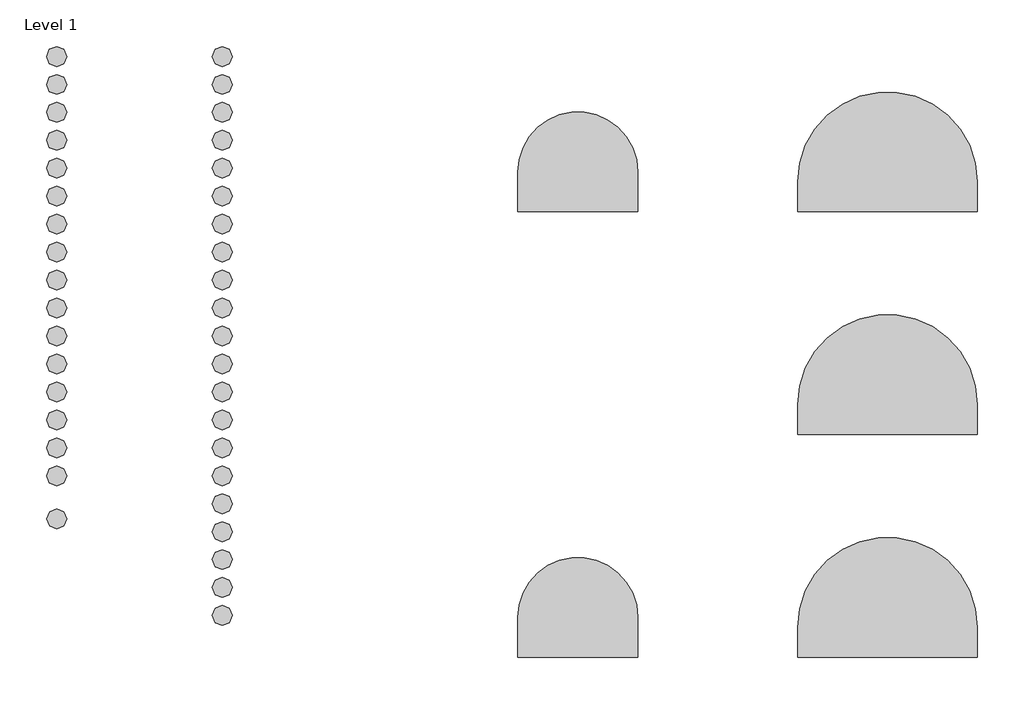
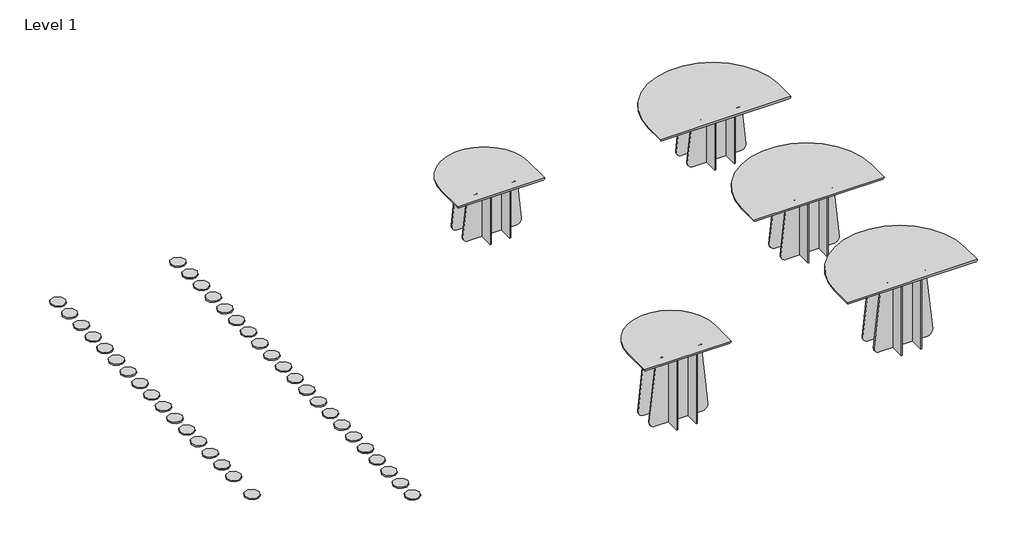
# One storey, incomplete: 38 proxies, 5 furniture elements.
"""IFC4 building model written with IfcOpenShell, lengths in millimetres."""

from ifc_helpers import new_model, si_unit, origin, place, context, project, spatial, transform, mapped, element, save
from components import materialmodel_materialmodel_33d36961, furniture_b316d67d, furniture_634e2856, furniture_daae894f, furniture_8cfc61dc, furniture_d688ee71

model = new_model("IFC4")

# Units and contexts
model_context = context("Model", 3, world=origin())
ifc_project = project(units=[si_unit("LENGTHUNIT", "METRE", prefix="MILLI")], contexts=[model_context])

# Site, building, storey
site = spatial("IfcSite", under=ifc_project)
building = spatial("IfcBuilding", under=site)
storey = spatial("IfcBuildingStorey", under=building, Name="Level 1", Elevation=0.0)

# Proxies
placement = place(None, origin())
materialmodel_materialmodel_shape = materialmodel_materialmodel_33d36961(model_context)
element("IfcBuildingElementProxy", 1, Name="MaterialModel : MaterialModel", ObjectType="MaterialModel : MaterialModel", at=placement, inside=storey, context=model_context, shape_type="MappedRepresentation", body=[
    mapped(materialmodel_materialmodel_shape, transform((3174.8825232, 5959.7864083, 0.0), x_axis=(1.0, 0.0, 0.0), y_axis=(0.0, 1.0, 0.0), z_axis=(0.0, 0.0, 1.0))),
])
element("IfcBuildingElementProxy", 2, Name="MaterialModel : MaterialModel", ObjectType="MaterialModel : MaterialModel", at=placement, inside=storey, context=model_context, shape_type="MappedRepresentation", body=[
    mapped(materialmodel_materialmodel_shape, transform((3174.8825232, 5679.7864083, 0.0), x_axis=(1.0, 0.0, 0.0), y_axis=(0.0, 1.0, 0.0), z_axis=(0.0, 0.0, 1.0))),
])
element("IfcBuildingElementProxy", 3, Name="MaterialModel : MaterialModel", ObjectType="MaterialModel : MaterialModel", at=placement, inside=storey, context=model_context, shape_type="MappedRepresentation", body=[
    mapped(materialmodel_materialmodel_shape, transform((3174.8825232, 5399.7864083, 0.0), x_axis=(1.0, 0.0, 0.0), y_axis=(0.0, 1.0, 0.0), z_axis=(0.0, 0.0, 1.0))),
])
element("IfcBuildingElementProxy", 4, Name="MaterialModel : MaterialModel", ObjectType="MaterialModel : MaterialModel", at=placement, inside=storey, context=model_context, shape_type="MappedRepresentation", body=[
    mapped(materialmodel_materialmodel_shape, transform((4832.6075509, 5959.7864083, 0.0), x_axis=(1.0, 0.0, 0.0), y_axis=(0.0, 1.0, 0.0), z_axis=(0.0, 0.0, 1.0))),
])
element("IfcBuildingElementProxy", 5, Name="MaterialModel : MaterialModel", ObjectType="MaterialModel : MaterialModel", at=placement, inside=storey, context=model_context, shape_type="MappedRepresentation", body=[
    mapped(materialmodel_materialmodel_shape, transform((4832.6075509, 5679.7864083, 0.0), x_axis=(1.0, 0.0, 0.0), y_axis=(0.0, 1.0, 0.0), z_axis=(0.0, 0.0, 1.0))),
])
element("IfcBuildingElementProxy", 6, Name="MaterialModel : MaterialModel", ObjectType="MaterialModel : MaterialModel", at=placement, inside=storey, context=model_context, shape_type="MappedRepresentation", body=[
    mapped(materialmodel_materialmodel_shape, transform((4832.6075509, 5399.7864083, 0.0), x_axis=(1.0, 0.0, 0.0), y_axis=(0.0, 1.0, 0.0), z_axis=(0.0, 0.0, 1.0))),
])
element("IfcBuildingElementProxy", 7, Name="MaterialModel : MaterialModel", ObjectType="MaterialModel : MaterialModel", at=placement, inside=storey, context=model_context, shape_type="MappedRepresentation", body=[
    mapped(materialmodel_materialmodel_shape, transform((4832.6075509, 5119.7864083, 0.0), x_axis=(1.0, 0.0, 0.0), y_axis=(0.0, 1.0, 0.0), z_axis=(0.0, 0.0, 1.0))),
])
element("IfcBuildingElementProxy", 8, Name="MaterialModel : MaterialModel", ObjectType="MaterialModel : MaterialModel", at=placement, inside=storey, context=model_context, shape_type="MappedRepresentation", body=[
    mapped(materialmodel_materialmodel_shape, transform((4832.6075509, 4839.7864083, 0.0), x_axis=(1.0, 0.0, 0.0), y_axis=(0.0, 1.0, 0.0), z_axis=(0.0, 0.0, 1.0))),
])
element("IfcBuildingElementProxy", 9, Name="MaterialModel : MaterialModel", ObjectType="MaterialModel : MaterialModel", at=placement, inside=storey, context=model_context, shape_type="MappedRepresentation", body=[
    mapped(materialmodel_materialmodel_shape, transform((4832.6075509, 4559.7864083, 0.0), x_axis=(1.0, 0.0, 0.0), y_axis=(0.0, 1.0, 0.0), z_axis=(0.0, 0.0, 1.0))),
])
element("IfcBuildingElementProxy", 10, Name="MaterialModel : MaterialModel", ObjectType="MaterialModel : MaterialModel", at=placement, inside=storey, context=model_context, shape_type="MappedRepresentation", body=[
    mapped(materialmodel_materialmodel_shape, transform((4832.6075509, 4279.7864083, 0.0), x_axis=(1.0, 0.0, 0.0), y_axis=(0.0, 1.0, 0.0), z_axis=(0.0, 0.0, 1.0))),
])
element("IfcBuildingElementProxy", 11, Name="MaterialModel : MaterialModel", ObjectType="MaterialModel : MaterialModel", at=placement, inside=storey, context=model_context, shape_type="MappedRepresentation", body=[
    mapped(materialmodel_materialmodel_shape, transform((4832.6075509, 3999.7864083, 0.0), x_axis=(1.0, 0.0, 0.0), y_axis=(0.0, 1.0, 0.0), z_axis=(0.0, 0.0, 1.0))),
])
element("IfcBuildingElementProxy", 12, Name="MaterialModel : MaterialModel", ObjectType="MaterialModel : MaterialModel", at=placement, inside=storey, context=model_context, shape_type="MappedRepresentation", body=[
    mapped(materialmodel_materialmodel_shape, transform((4832.6075509, 3719.7864083, 0.0), x_axis=(1.0, 0.0, 0.0), y_axis=(0.0, 1.0, 0.0), z_axis=(0.0, 0.0, 1.0))),
])
element("IfcBuildingElementProxy", 13, Name="MaterialModel : MaterialModel", ObjectType="MaterialModel : MaterialModel", at=placement, inside=storey, context=model_context, shape_type="MappedRepresentation", body=[
    mapped(materialmodel_materialmodel_shape, transform((4832.6075509, 3439.7864083, 0.0), x_axis=(1.0, 0.0, 0.0), y_axis=(0.0, 1.0, 0.0), z_axis=(0.0, 0.0, 1.0))),
])
element("IfcBuildingElementProxy", 14, Name="MaterialModel : MaterialModel", ObjectType="MaterialModel : MaterialModel", at=placement, inside=storey, context=model_context, shape_type="MappedRepresentation", body=[
    mapped(materialmodel_materialmodel_shape, transform((4832.6075509, 3159.7864083, 0.0), x_axis=(1.0, 0.0, 0.0), y_axis=(0.0, 1.0, 0.0), z_axis=(0.0, 0.0, 1.0))),
])
element("IfcBuildingElementProxy", 15, Name="MaterialModel : MaterialModel", ObjectType="MaterialModel : MaterialModel", at=placement, inside=storey, context=model_context, shape_type="MappedRepresentation", body=[
    mapped(materialmodel_materialmodel_shape, transform((4832.6075509, 2879.7864083, 0.0), x_axis=(1.0, 0.0, 0.0), y_axis=(0.0, 1.0, 0.0), z_axis=(0.0, 0.0, 1.0))),
])
element("IfcBuildingElementProxy", 16, Name="MaterialModel : MaterialModel", ObjectType="MaterialModel : MaterialModel", at=placement, inside=storey, context=model_context, shape_type="MappedRepresentation", body=[
    mapped(materialmodel_materialmodel_shape, transform((4832.6075509, 2599.7864083, 0.0), x_axis=(1.0, 0.0, 0.0), y_axis=(0.0, 1.0, 0.0), z_axis=(0.0, 0.0, 1.0))),
])
element("IfcBuildingElementProxy", 17, Name="MaterialModel : MaterialModel", ObjectType="MaterialModel : MaterialModel", at=placement, inside=storey, context=model_context, shape_type="MappedRepresentation", body=[
    mapped(materialmodel_materialmodel_shape, transform((4832.6075509, 2319.7864083, 0.0), x_axis=(1.0, 0.0, 0.0), y_axis=(0.0, 1.0, 0.0), z_axis=(0.0, 0.0, 1.0))),
])
element("IfcBuildingElementProxy", 18, Name="MaterialModel : MaterialModel", ObjectType="MaterialModel : MaterialModel", at=placement, inside=storey, context=model_context, shape_type="MappedRepresentation", body=[
    mapped(materialmodel_materialmodel_shape, transform((4832.6075509, 2039.7864083, 0.0), x_axis=(1.0, 0.0, 0.0), y_axis=(0.0, 1.0, 0.0), z_axis=(0.0, 0.0, 1.0))),
])
element("IfcBuildingElementProxy", 19, Name="MaterialModel : MaterialModel", ObjectType="MaterialModel : MaterialModel", at=placement, inside=storey, context=model_context, shape_type="MappedRepresentation", body=[
    mapped(materialmodel_materialmodel_shape, transform((4832.6075509, 1759.7864083, 0.0), x_axis=(1.0, 0.0, 0.0), y_axis=(0.0, 1.0, 0.0), z_axis=(0.0, 0.0, 1.0))),
])
element("IfcBuildingElementProxy", 20, Name="MaterialModel : MaterialModel", ObjectType="MaterialModel : MaterialModel", at=placement, inside=storey, context=model_context, shape_type="MappedRepresentation", body=[
    mapped(materialmodel_materialmodel_shape, transform((4832.6075509, 1479.7864083, 0.0), x_axis=(1.0, 0.0, 0.0), y_axis=(0.0, 1.0, 0.0), z_axis=(0.0, 0.0, 1.0))),
])
element("IfcBuildingElementProxy", 21, Name="MaterialModel : MaterialModel", ObjectType="MaterialModel : MaterialModel", at=placement, inside=storey, context=model_context, shape_type="MappedRepresentation", body=[
    mapped(materialmodel_materialmodel_shape, transform((4832.6075509, 1199.7864083, 0.0), x_axis=(1.0, 0.0, 0.0), y_axis=(0.0, 1.0, 0.0), z_axis=(0.0, 0.0, 1.0))),
])
element("IfcBuildingElementProxy", 22, Name="MaterialModel : MaterialModel", ObjectType="MaterialModel : MaterialModel", at=placement, inside=storey, context=model_context, shape_type="MappedRepresentation", body=[
    mapped(materialmodel_materialmodel_shape, transform((4832.6075509, 919.7864083, 0.0), x_axis=(1.0, 0.0, 0.0), y_axis=(0.0, 1.0, 0.0), z_axis=(0.0, 0.0, 1.0))),
])
element("IfcBuildingElementProxy", 23, Name="MaterialModel : MaterialModel", ObjectType="MaterialModel : MaterialModel", at=placement, inside=storey, context=model_context, shape_type="MappedRepresentation", body=[
    mapped(materialmodel_materialmodel_shape, transform((4832.6075509, 639.7864083, 0.0), x_axis=(1.0, 0.0, 0.0), y_axis=(0.0, 1.0, 0.0), z_axis=(0.0, 0.0, 1.0))),
])
element("IfcBuildingElementProxy", 24, Name="MaterialModel : MaterialModel", ObjectType="MaterialModel : MaterialModel", at=placement, inside=storey, context=model_context, shape_type="MappedRepresentation", body=[
    mapped(materialmodel_materialmodel_shape, transform((4832.6075509, 359.7864083, 0.0), x_axis=(1.0, 0.0, 0.0), y_axis=(0.0, 1.0, 0.0), z_axis=(0.0, 0.0, 1.0))),
])
element("IfcBuildingElementProxy", 25, Name="MaterialModel : MaterialModel", ObjectType="MaterialModel : MaterialModel", at=placement, inside=storey, context=model_context, shape_type="MappedRepresentation", body=[
    mapped(materialmodel_materialmodel_shape, transform((3174.8825232, 5119.7864083, 0.0), x_axis=(1.0, 0.0, 0.0), y_axis=(0.0, 1.0, 0.0), z_axis=(0.0, 0.0, 1.0))),
])
element("IfcBuildingElementProxy", 26, Name="MaterialModel : MaterialModel", ObjectType="MaterialModel : MaterialModel", at=placement, inside=storey, context=model_context, shape_type="MappedRepresentation", body=[
    mapped(materialmodel_materialmodel_shape, transform((3174.8825232, 4839.7864083, 0.0), x_axis=(1.0, 0.0, 0.0), y_axis=(0.0, 1.0, 0.0), z_axis=(0.0, 0.0, 1.0))),
])
element("IfcBuildingElementProxy", 27, Name="MaterialModel : MaterialModel", ObjectType="MaterialModel : MaterialModel", at=placement, inside=storey, context=model_context, shape_type="MappedRepresentation", body=[
    mapped(materialmodel_materialmodel_shape, transform((3174.8825232, 4559.7864083, 0.0), x_axis=(1.0, 0.0, 0.0), y_axis=(0.0, 1.0, 0.0), z_axis=(0.0, 0.0, 1.0))),
])
element("IfcBuildingElementProxy", 28, Name="MaterialModel : MaterialModel", ObjectType="MaterialModel : MaterialModel", at=placement, inside=storey, context=model_context, shape_type="MappedRepresentation", body=[
    mapped(materialmodel_materialmodel_shape, transform((3174.8825232, 4279.7864083, 0.0), x_axis=(1.0, 0.0, 0.0), y_axis=(0.0, 1.0, 0.0), z_axis=(0.0, 0.0, 1.0))),
])
element("IfcBuildingElementProxy", 29, Name="MaterialModel : MaterialModel", ObjectType="MaterialModel : MaterialModel", at=placement, inside=storey, context=model_context, shape_type="MappedRepresentation", body=[
    mapped(materialmodel_materialmodel_shape, transform((3174.8825232, 3999.7864083, 0.0), x_axis=(1.0, 0.0, 0.0), y_axis=(0.0, 1.0, 0.0), z_axis=(0.0, 0.0, 1.0))),
])
element("IfcBuildingElementProxy", 30, Name="MaterialModel : MaterialModel", ObjectType="MaterialModel : MaterialModel", at=placement, inside=storey, context=model_context, shape_type="MappedRepresentation", body=[
    mapped(materialmodel_materialmodel_shape, transform((3174.8825232, 3719.7864083, 0.0), x_axis=(1.0, 0.0, 0.0), y_axis=(0.0, 1.0, 0.0), z_axis=(0.0, 0.0, 1.0))),
])
element("IfcBuildingElementProxy", 31, Name="MaterialModel : MaterialModel", ObjectType="MaterialModel : MaterialModel", at=placement, inside=storey, context=model_context, shape_type="MappedRepresentation", body=[
    mapped(materialmodel_materialmodel_shape, transform((3174.8825232, 3439.7864083, 0.0), x_axis=(1.0, 0.0, 0.0), y_axis=(0.0, 1.0, 0.0), z_axis=(0.0, 0.0, 1.0))),
])
element("IfcBuildingElementProxy", 32, Name="MaterialModel : MaterialModel", ObjectType="MaterialModel : MaterialModel", at=placement, inside=storey, context=model_context, shape_type="MappedRepresentation", body=[
    mapped(materialmodel_materialmodel_shape, transform((3174.8825232, 3159.7864083, 0.0), x_axis=(1.0, 0.0, 0.0), y_axis=(0.0, 1.0, 0.0), z_axis=(0.0, 0.0, 1.0))),
])
element("IfcBuildingElementProxy", 33, Name="MaterialModel : MaterialModel", ObjectType="MaterialModel : MaterialModel", at=placement, inside=storey, context=model_context, shape_type="MappedRepresentation", body=[
    mapped(materialmodel_materialmodel_shape, transform((3174.8825232, 2879.7864083, 0.0), x_axis=(1.0, 0.0, 0.0), y_axis=(0.0, 1.0, 0.0), z_axis=(0.0, 0.0, 1.0))),
])
element("IfcBuildingElementProxy", 34, Name="MaterialModel : MaterialModel", ObjectType="MaterialModel : MaterialModel", at=placement, inside=storey, context=model_context, shape_type="MappedRepresentation", body=[
    mapped(materialmodel_materialmodel_shape, transform((3174.8825232, 2599.7864083, 0.0), x_axis=(1.0, 0.0, 0.0), y_axis=(0.0, 1.0, 0.0), z_axis=(0.0, 0.0, 1.0))),
])
element("IfcBuildingElementProxy", 35, Name="MaterialModel : MaterialModel", ObjectType="MaterialModel : MaterialModel", at=placement, inside=storey, context=model_context, shape_type="MappedRepresentation", body=[
    mapped(materialmodel_materialmodel_shape, transform((3174.8825232, 2319.7864083, 0.0), x_axis=(1.0, 0.0, 0.0), y_axis=(0.0, 1.0, 0.0), z_axis=(0.0, 0.0, 1.0))),
])
element("IfcBuildingElementProxy", 36, Name="MaterialModel : MaterialModel", ObjectType="MaterialModel : MaterialModel", at=placement, inside=storey, context=model_context, shape_type="MappedRepresentation", body=[
    mapped(materialmodel_materialmodel_shape, transform((3174.8825232, 2039.7864083, 0.0), x_axis=(1.0, 0.0, 0.0), y_axis=(0.0, 1.0, 0.0), z_axis=(0.0, 0.0, 1.0))),
])
element("IfcBuildingElementProxy", 37, Name="MaterialModel : MaterialModel", ObjectType="MaterialModel : MaterialModel", at=placement, inside=storey, context=model_context, shape_type="MappedRepresentation", body=[
    mapped(materialmodel_materialmodel_shape, transform((3174.8825232, 1759.7864083, 0.0), x_axis=(1.0, 0.0, 0.0), y_axis=(0.0, 1.0, 0.0), z_axis=(0.0, 0.0, 1.0))),
])
element("IfcBuildingElementProxy", 38, Name="MaterialModel : MaterialModel", ObjectType="MaterialModel : MaterialModel", at=placement, inside=storey, context=model_context, shape_type="MappedRepresentation", body=[
    mapped(materialmodel_materialmodel_shape, transform((3176.8899528, 1325.8452922, 0.0), x_axis=(1.0, 0.0, 0.0), y_axis=(0.0, 1.0, 0.0), z_axis=(0.0, 0.0, 1.0))),
])

# Furniture
furniture_shape = furniture_b316d67d(model_context)
element("IfcFurniture", 39, ObjectType="Lundbergs Möbler - Funghi Mèta - Table - Half Moon - 180 - H90 : Lundbergs Möbler - Funghi Mèta - Table - Half Moon - 180 - H90", at=placement, inside=storey, context=model_context, shape_type="MappedRepresentation", body=[
    mapped(furniture_shape, transform((11493.8807283, 2529.1334915, 0.0), x_axis=(-1.0, 0.0, 0.0), y_axis=(0.0, -1.0, 0.0), z_axis=(0.0, 0.0, 1.0))),
])
furniture_2_shape = furniture_634e2856(model_context)
element("IfcFurniture", 40, ObjectType="Lundbergs Möbler - Funghi Mèta - Table - Half Moon - 120 - H73 : Lundbergs Möbler - Funghi Mèta - Table - Half Moon - 120 - H73", at=placement, inside=storey, context=model_context, shape_type="MappedRepresentation", body=[
    mapped(furniture_2_shape, transform((8393.8807283, 4760.3414483, 0.0), x_axis=(-1.0, 0.0, 0.0), y_axis=(0.0, -1.0, 0.0), z_axis=(0.0, 0.0, 1.0))),
])
furniture_3_shape = furniture_daae894f(model_context)
element("IfcFurniture", 41, ObjectType="Lundbergs Möbler - Funghi Mèta - Table - Half Moon - 180 - H73 : Lundbergs Möbler - Funghi Mèta - Table - Half Moon - 180 - H73", at=placement, inside=storey, context=model_context, shape_type="MappedRepresentation", body=[
    mapped(furniture_3_shape, transform((11493.8807283, 4760.3414483, 0.0), x_axis=(-1.0, 0.0, 0.0), y_axis=(0.0, -1.0, 0.0), z_axis=(0.0, 0.0, 1.0))),
])
furniture_4_shape = furniture_8cfc61dc(model_context)
element("IfcFurniture", 42, ObjectType="Lundbergs Möbler - Funghi Mèta - Table - Half Moon - 180 - H105 : Lundbergs Möbler - Funghi Mèta - Table - Half Moon - 180 - H105", at=placement, inside=storey, context=model_context, shape_type="MappedRepresentation", body=[
    mapped(furniture_4_shape, transform((11493.8807283, 297.9255346, 0.0), x_axis=(-1.0, 0.0, 0.0), y_axis=(0.0, -1.0, 0.0), z_axis=(0.0, 0.0, 1.0))),
])
furniture_5_shape = furniture_d688ee71(model_context)
element("IfcFurniture", 43, ObjectType="Lundbergs Möbler - Funghi Mèta - Table - Half Moon - 120 - H105 : Lundbergs Möbler - Funghi Mèta - Table - Half Moon - 120 - H105", at=placement, inside=storey, context=model_context, shape_type="MappedRepresentation", body=[
    mapped(furniture_5_shape, transform((8393.8807283, 297.9255346, 0.0), x_axis=(-1.0, 0.0, 0.0), y_axis=(0.0, -1.0, 0.0), z_axis=(0.0, 0.0, 1.0))),
])

save(model, "model.ifc")
